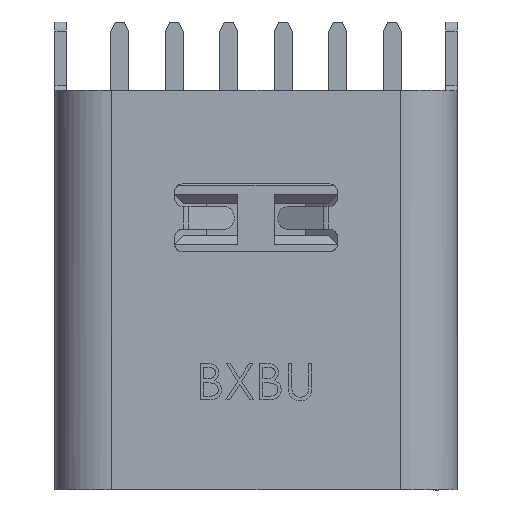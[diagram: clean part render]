
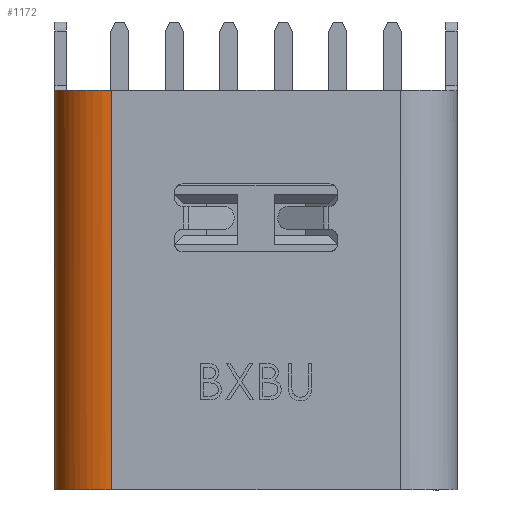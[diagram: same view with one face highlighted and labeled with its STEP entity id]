
A CAD part, front view. The second image highlights one B-rep face of the part: STEP entity #1172.
In plain terms, the highlighted cylindrical face has radius 1.25 mm (diameter 2.5 mm), a partial arc.
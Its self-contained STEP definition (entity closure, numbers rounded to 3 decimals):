
#259 = VERTEX_POINT ( 'NONE', #3153 ) ;
#458 = CARTESIAN_POINT ( 'NONE',  ( 2.087, 4.782, 12.312 ) ) ;
#571 = FACE_OUTER_BOUND ( 'NONE', #6702, .T. ) ;
#638 = CARTESIAN_POINT ( 'NONE',  ( 2.087, 4.782, 3.511 ) ) ;
#845 = CARTESIAN_POINT ( 'NONE',  ( 3.014, 3.564, 12.311 ) ) ;
#1056 = CARTESIAN_POINT ( 'NONE',  ( 2.087, 4.762, 12.311 ) ) ;
#1074 = CARTESIAN_POINT ( 'NONE',  ( 3.337, 3.532, 12.311 ) ) ;
#1102 = B_SPLINE_CURVE_WITH_KNOTS ( 'NONE', 3,
 ( #1056, #5135, #4073, #458 ),
 .UNSPECIFIED., .F., .F.,
 ( 4, 4 ),
 ( 0., 1. ),
 .UNSPECIFIED. ) ;
#1172 = ADVANCED_FACE ( 'NONE', ( #571 ), #3280, .T. ) ;
#1272 = EDGE_CURVE ( 'NONE', #4129, #4735, #4894, .T. ) ;
#1444 = EDGE_CURVE ( 'NONE', #4735, #2990, #4480, .T. ) ;
#1675 = EDGE_CURVE ( 'NONE', #259, #4129, #1102, .T. ) ;
#1851 = CARTESIAN_POINT ( 'NONE',  ( 2.125, 4.439, 12.311 ) ) ;
#2030 = CARTESIAN_POINT ( 'NONE',  ( 2.708, 3.69, 3.511 ) ) ;
#2130 = DIRECTION ( 'NONE',  ( 0., 0., -1. ) ) ;
#2138 = CARTESIAN_POINT ( 'NONE',  ( 2.087, 4.782, 3.511 ) ) ;
#2365 = CARTESIAN_POINT ( 'NONE',  ( 2.345, 4.005, 12.311 ) ) ;
#2388 = ORIENTED_EDGE ( 'NONE', *, *, #6391, .T. ) ;
#2459 = AXIS2_PLACEMENT_3D ( 'NONE', #2694, #2130, #3703 ) ;
#2513 = CARTESIAN_POINT ( 'NONE',  ( 3.175, 3.532, 12.311 ) ) ;
#2680 = ORIENTED_EDGE ( 'NONE', *, *, #1675, .T. ) ;
#2694 = CARTESIAN_POINT ( 'NONE',  ( 3.337, 4.782, 11.611 ) ) ;
#2738 = B_SPLINE_CURVE_WITH_KNOTS ( 'NONE', 3,
 ( #5378, #6433, #2795, #5955 ),
 .UNSPECIFIED., .F., .F.,
 ( 4, 4 ),
 ( 0., 1. ),
 .UNSPECIFIED. ) ;
#2795 = CARTESIAN_POINT ( 'NONE',  ( 3.337, 3.532, 9.378 ) ) ;
#2970 = CARTESIAN_POINT ( 'NONE',  ( 2.252, 4.141, 12.311 ) ) ;
#2990 = VERTEX_POINT ( 'NONE', #4951 ) ;
#3153 = CARTESIAN_POINT ( 'NONE',  ( 2.087, 4.762, 12.311 ) ) ;
#3183 = CARTESIAN_POINT ( 'NONE',  ( 2.087, 4.782, 3.511 ) ) ;
#3280 = CYLINDRICAL_SURFACE ( 'NONE', #2459, 1.25 ) ;
#3533 = EDGE_CURVE ( 'NONE', #2990, #3740, #2738, .T. ) ;
#3703 = DIRECTION ( 'NONE',  ( -1., 0., 0. ) ) ;
#3710 = CARTESIAN_POINT ( 'NONE',  ( 2.087, 4.619, 3.511 ) ) ;
#3740 = VERTEX_POINT ( 'NONE', #1074 ) ;
#3806 = CARTESIAN_POINT ( 'NONE',  ( 2.087, 4.782, 6.445 ) ) ;
#4073 = CARTESIAN_POINT ( 'NONE',  ( 2.087, 4.776, 12.311 ) ) ;
#4129 = VERTEX_POINT ( 'NONE', #4828 ) ;
#4230 = CARTESIAN_POINT ( 'NONE',  ( 3.01, 3.565, 3.511 ) ) ;
#4480 = B_SPLINE_CURVE_WITH_KNOTS ( 'NONE', 3,
 ( #2138, #3710, #4771, #6226, #6751, #6268, #2030, #4230, #5323, #5724 ),
 .UNSPECIFIED., .F., .F.,
 ( 4, 2, 2, 2, 4 ),
 ( 0., 0.25, 0.5, 0.75, 1. ),
 .UNSPECIFIED. ) ;
#4521 = CARTESIAN_POINT ( 'NONE',  ( 3.337, 3.532, 12.311 ) ) ;
#4622 = CARTESIAN_POINT ( 'NONE',  ( 2.087, 4.762, 12.311 ) ) ;
#4735 = VERTEX_POINT ( 'NONE', #3183 ) ;
#4752 = B_SPLINE_CURVE_WITH_KNOTS ( 'NONE', 3,
 ( #4521, #2513, #845, #6606, #6674, #2365, #2970, #1851, #5614, #4622 ),
 .UNSPECIFIED., .F., .F.,
 ( 4, 2, 2, 2, 4 ),
 ( 0., 0.25, 0.5, 0.75, 1. ),
 .UNSPECIFIED. ) ;
#4762 = CARTESIAN_POINT ( 'NONE',  ( 2.087, 4.782, 12.312 ) ) ;
#4771 = CARTESIAN_POINT ( 'NONE',  ( 2.12, 4.455, 3.511 ) ) ;
#4828 = CARTESIAN_POINT ( 'NONE',  ( 2.087, 4.782, 12.312 ) ) ;
#4894 = B_SPLINE_CURVE_WITH_KNOTS ( 'NONE', 3,
 ( #4762, #5312, #3806, #638 ),
 .UNSPECIFIED., .F., .F.,
 ( 4, 4 ),
 ( 0., 1. ),
 .UNSPECIFIED. ) ;
#4951 = CARTESIAN_POINT ( 'NONE',  ( 3.337, 3.532, 3.511 ) ) ;
#5135 = CARTESIAN_POINT ( 'NONE',  ( 2.087, 4.769, 12.311 ) ) ;
#5312 = CARTESIAN_POINT ( 'NONE',  ( 2.087, 4.782, 9.378 ) ) ;
#5323 = CARTESIAN_POINT ( 'NONE',  ( 3.174, 3.532, 3.511 ) ) ;
#5378 = CARTESIAN_POINT ( 'NONE',  ( 3.337, 3.532, 3.511 ) ) ;
#5430 = ORIENTED_EDGE ( 'NONE', *, *, #3533, .T. ) ;
#5614 = CARTESIAN_POINT ( 'NONE',  ( 2.09, 4.6, 12.311 ) ) ;
#5724 = CARTESIAN_POINT ( 'NONE',  ( 3.337, 3.532, 3.511 ) ) ;
#5843 = ORIENTED_EDGE ( 'NONE', *, *, #1444, .T. ) ;
#5955 = CARTESIAN_POINT ( 'NONE',  ( 3.337, 3.532, 12.311 ) ) ;
#6226 = CARTESIAN_POINT ( 'NONE',  ( 2.245, 4.153, 3.511 ) ) ;
#6268 = CARTESIAN_POINT ( 'NONE',  ( 2.569, 3.783, 3.511 ) ) ;
#6279 = ORIENTED_EDGE ( 'NONE', *, *, #1272, .T. ) ;
#6391 = EDGE_CURVE ( 'NONE', #3740, #259, #4752, .T. ) ;
#6433 = CARTESIAN_POINT ( 'NONE',  ( 3.337, 3.532, 6.445 ) ) ;
#6606 = CARTESIAN_POINT ( 'NONE',  ( 2.714, 3.687, 12.311 ) ) ;
#6674 = CARTESIAN_POINT ( 'NONE',  ( 2.576, 3.778, 12.311 ) ) ;
#6702 = EDGE_LOOP ( 'NONE', ( #2388, #2680, #6279, #5843, #5430 ) ) ;
#6751 = CARTESIAN_POINT ( 'NONE',  ( 2.338, 4.014, 3.511 ) ) ;
